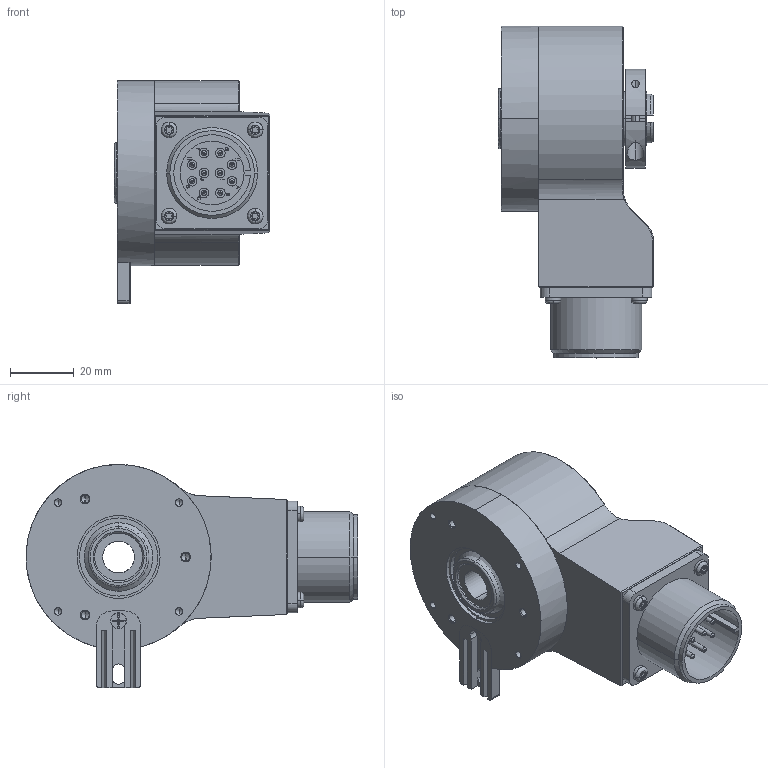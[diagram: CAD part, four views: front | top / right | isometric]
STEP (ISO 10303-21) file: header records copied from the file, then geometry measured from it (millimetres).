
FILE_DESCRIPTION (( 'STEP AP203' ), '1' );
FILE_NAME ('K58I.OXX.XXXXX.XC21510.6XRCJ.step', '2025-12-08T12:03:20', ( '' ), ( '' ), 'SwSTEP 2.0', 'SolidWorks 2021', '' );
FILE_SCHEMA (( 'CONFIG_CONTROL_DESIGN' ));
Length unit declared in the file: millimetre
Products named in the file (1): K58I.OXX.XXXXX.XC21510.6XRCJ
Bounding box: 48.6 x 104 x 69.9 mm (x, y, z)
Volume: 143727.9 mm3; surface area: 44195.1 mm2
Topology: 8 solids, 8 shells, 631 faces, 1586 edges, 1014 vertices
Faces by surface type: plane 253, cylinder 240, cone 55, bspline 55, torus 28
Entity records: 23138 total; most frequent: CARTESIAN_POINT 7988, ORIENTED_EDGE 3144, DIRECTION 3122, EDGE_CURVE 1572, AXIS2_PLACEMENT_3D 1147, VERTEX_POINT 1014, VECTOR 828, LINE 828
